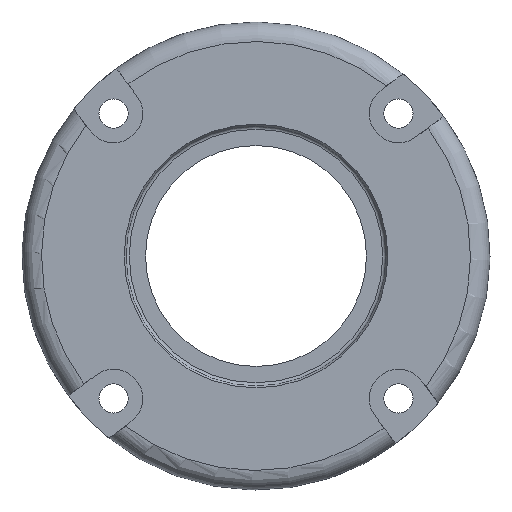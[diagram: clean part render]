
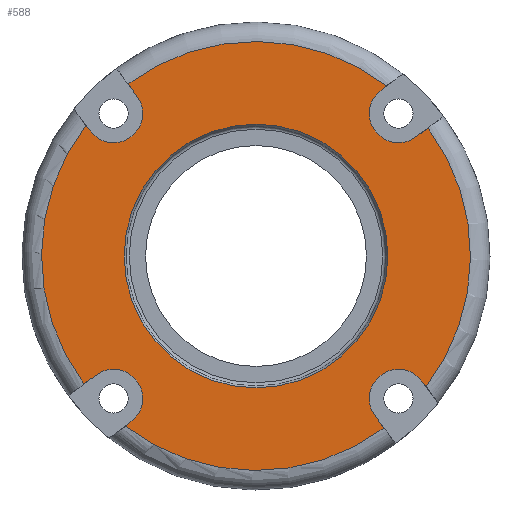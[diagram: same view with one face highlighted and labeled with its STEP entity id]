
A CAD part, left-side view. The second image highlights one B-rep face of the part: STEP entity #588.
In plain terms, the highlighted planar face has unit normal (-1, 0, 0).
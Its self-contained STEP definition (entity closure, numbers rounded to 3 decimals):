
#27=FACE_BOUND($,#173,.T.);
#55=LINE($,#924,#87);
#59=LINE($,#932,#91);
#60=LINE($,#936,#92);
#61=LINE($,#940,#93);
#62=LINE($,#944,#94);
#63=LINE($,#948,#95);
#64=LINE($,#952,#96);
#65=LINE($,#956,#97);
#87=VECTOR($,#719,1.077);
#91=VECTOR($,#725,2.328);
#92=VECTOR($,#728,1.077);
#93=VECTOR($,#731,2.328);
#94=VECTOR($,#734,1.077);
#95=VECTOR($,#737,2.328);
#96=VECTOR($,#740,1.077);
#97=VECTOR($,#743,2.328);
#120=PLANE($,#631);
#138=FACE_OUTER_BOUND($,#172,.T.);
#172=EDGE_LOOP($,(#429,#430,#431,#432,#433,#434,#435,#436,#437,#438,#439,
#440,#441,#442,#443,#444));
#173=EDGE_LOOP($,(#445));
#237=CIRCLE($,#628,33.);
#239=CIRCLE($,#632,4.5);
#240=CIRCLE($,#633,33.);
#241=CIRCLE($,#634,4.5);
#242=CIRCLE($,#635,33.);
#243=CIRCLE($,#636,4.5);
#244=CIRCLE($,#637,33.);
#245=CIRCLE($,#638,4.5);
#246=CIRCLE($,#639,20.289);
#281=VERTEX_POINT($,#906);
#282=VERTEX_POINT($,#908);
#284=VERTEX_POINT($,#923);
#287=VERTEX_POINT($,#931);
#288=VERTEX_POINT($,#933);
#289=VERTEX_POINT($,#935);
#290=VERTEX_POINT($,#937);
#291=VERTEX_POINT($,#939);
#292=VERTEX_POINT($,#941);
#293=VERTEX_POINT($,#943);
#294=VERTEX_POINT($,#945);
#295=VERTEX_POINT($,#947);
#296=VERTEX_POINT($,#949);
#297=VERTEX_POINT($,#951);
#298=VERTEX_POINT($,#953);
#299=VERTEX_POINT($,#955);
#300=VERTEX_POINT($,#958);
#341=EDGE_CURVE($,#281,#282,#237,.T.);
#344=EDGE_CURVE($,#284,#282,#55,.T.);
#348=EDGE_CURVE($,#281,#287,#59,.T.);
#349=EDGE_CURVE($,#287,#288,#239,.T.);
#350=EDGE_CURVE($,#288,#289,#60,.T.);
#351=EDGE_CURVE($,#290,#289,#240,.T.);
#352=EDGE_CURVE($,#290,#291,#61,.T.);
#353=EDGE_CURVE($,#291,#292,#241,.T.);
#354=EDGE_CURVE($,#292,#293,#62,.T.);
#355=EDGE_CURVE($,#294,#293,#242,.T.);
#356=EDGE_CURVE($,#294,#295,#63,.T.);
#357=EDGE_CURVE($,#295,#296,#243,.T.);
#358=EDGE_CURVE($,#296,#297,#64,.T.);
#359=EDGE_CURVE($,#298,#297,#244,.T.);
#360=EDGE_CURVE($,#298,#299,#65,.T.);
#361=EDGE_CURVE($,#299,#284,#245,.T.);
#362=EDGE_CURVE($,#300,#300,#246,.T.);
#429=ORIENTED_EDGE($,*,*,#341,.F.);
#430=ORIENTED_EDGE($,*,*,#348,.T.);
#431=ORIENTED_EDGE($,*,*,#349,.T.);
#432=ORIENTED_EDGE($,*,*,#350,.T.);
#433=ORIENTED_EDGE($,*,*,#351,.F.);
#434=ORIENTED_EDGE($,*,*,#352,.T.);
#435=ORIENTED_EDGE($,*,*,#353,.T.);
#436=ORIENTED_EDGE($,*,*,#354,.T.);
#437=ORIENTED_EDGE($,*,*,#355,.F.);
#438=ORIENTED_EDGE($,*,*,#356,.T.);
#439=ORIENTED_EDGE($,*,*,#357,.T.);
#440=ORIENTED_EDGE($,*,*,#358,.T.);
#441=ORIENTED_EDGE($,*,*,#359,.F.);
#442=ORIENTED_EDGE($,*,*,#360,.T.);
#443=ORIENTED_EDGE($,*,*,#361,.T.);
#444=ORIENTED_EDGE($,*,*,#344,.T.);
#445=ORIENTED_EDGE($,*,*,#362,.F.);
#588=ADVANCED_FACE($,(#138,#27),#120,.T.);
#628=AXIS2_PLACEMENT_3D($,#909,#713,#714);
#631=AXIS2_PLACEMENT_3D($,#930,#723,#724);
#632=AXIS2_PLACEMENT_3D($,#934,#726,#727);
#633=AXIS2_PLACEMENT_3D($,#938,#729,#730);
#634=AXIS2_PLACEMENT_3D($,#942,#732,#733);
#635=AXIS2_PLACEMENT_3D($,#946,#735,#736);
#636=AXIS2_PLACEMENT_3D($,#950,#738,#739);
#637=AXIS2_PLACEMENT_3D($,#954,#741,#742);
#638=AXIS2_PLACEMENT_3D($,#957,#744,#745);
#639=AXIS2_PLACEMENT_3D($,#959,#746,#747);
#713=DIRECTION('center_axis',(1.,0.,0.));
#714=DIRECTION('ref_axis',(0.,0.019,-1.));
#719=DIRECTION($,(0.,0.802,-0.597));
#723=DIRECTION('center_axis',(-1.,0.,0.));
#724=DIRECTION('ref_axis',(0.,0.,1.));
#725=DIRECTION($,(0.,0.597,0.802));
#726=DIRECTION('center_axis',(1.,0.,0.));
#727=DIRECTION('ref_axis',(0.,-1.,0.));
#728=DIRECTION($,(0.,-0.597,-0.802));
#729=DIRECTION('center_axis',(1.,0.,0.));
#730=DIRECTION('ref_axis',(0.,-1.,-0.019));
#731=DIRECTION($,(0.,0.802,-0.597));
#732=DIRECTION('center_axis',(1.,0.,0.));
#733=DIRECTION('ref_axis',(0.,0.,1.));
#734=DIRECTION($,(0.,-0.802,0.597));
#735=DIRECTION('center_axis',(1.,0.,0.));
#736=DIRECTION('ref_axis',(0.,-0.019,1.));
#737=DIRECTION($,(0.,-0.597,-0.802));
#738=DIRECTION('center_axis',(1.,0.,0.));
#739=DIRECTION('ref_axis',(0.,1.,0.));
#740=DIRECTION($,(0.,0.597,0.802));
#741=DIRECTION('center_axis',(1.,0.,0.));
#742=DIRECTION('ref_axis',(0.,1.,0.019));
#743=DIRECTION($,(0.,-0.802,0.597));
#744=DIRECTION('center_axis',(1.,0.,0.));
#745=DIRECTION('ref_axis',(0.,0.,-1.));
#746=DIRECTION('center_axis',(-1.,0.,0.));
#747=DIRECTION('ref_axis',(0.,0.,-1.));
#906=CARTESIAN_POINT('',(-6.,-19.7,-26.475));
#908=CARTESIAN_POINT('',(-6.,20.098,-26.174));
#909=CARTESIAN_POINT('Origin',(-6.,0.,0.));
#923=CARTESIAN_POINT('',(-6.,19.234,-25.53));
#924=CARTESIAN_POINT($,(-6.,2.141,-12.812));
#930=CARTESIAN_POINT('Origin',(-6.,0.,20.));
#931=CARTESIAN_POINT('',(-6.,-18.31,-24.607));
#932=CARTESIAN_POINT($,(-6.,-5.956,-8.004));
#933=CARTESIAN_POINT('',(-6.,-25.53,-19.234));
#934=CARTESIAN_POINT('Origin',(-6.,-21.92,-21.92));
#935=CARTESIAN_POINT('',(-6.,-26.174,-20.098));
#936=CARTESIAN_POINT($,(-6.,-11.586,-0.494));
#937=CARTESIAN_POINT('',(-6.,-26.475,19.7));
#938=CARTESIAN_POINT('Origin',(-6.,0.,0.));
#939=CARTESIAN_POINT('',(-6.,-24.607,18.31));
#940=CARTESIAN_POINT($,(-6.,-19.23,14.309));
#941=CARTESIAN_POINT('',(-6.,-19.234,25.53));
#942=CARTESIAN_POINT('Origin',(-6.,-21.92,21.92));
#943=CARTESIAN_POINT('',(-6.,-20.098,26.174));
#944=CARTESIAN_POINT($,(-6.,-11.72,19.939));
#945=CARTESIAN_POINT('',(-6.,19.7,26.475));
#946=CARTESIAN_POINT('Origin',(-6.,0.,0.));
#947=CARTESIAN_POINT('',(-6.,18.31,24.607));
#948=CARTESIAN_POINT($,(-6.,15.535,20.877));
#949=CARTESIAN_POINT('',(-6.,25.53,19.234));
#950=CARTESIAN_POINT('Origin',(-6.,21.92,21.92));
#951=CARTESIAN_POINT('',(-6.,26.174,20.098));
#952=CARTESIAN_POINT($,(-6.,21.165,13.367));
#953=CARTESIAN_POINT('',(-6.,26.475,-19.7));
#954=CARTESIAN_POINT('Origin',(-6.,0.,0.));
#955=CARTESIAN_POINT('',(-6.,24.607,-18.31));
#956=CARTESIAN_POINT($,(-6.,9.651,-7.182));
#957=CARTESIAN_POINT('Origin',(-6.,21.92,-21.92));
#958=CARTESIAN_POINT('',(-6.,0.,20.289));
#959=CARTESIAN_POINT('Origin',(-6.,0.,0.));
